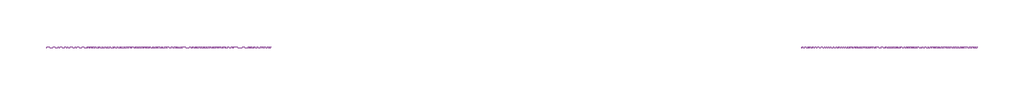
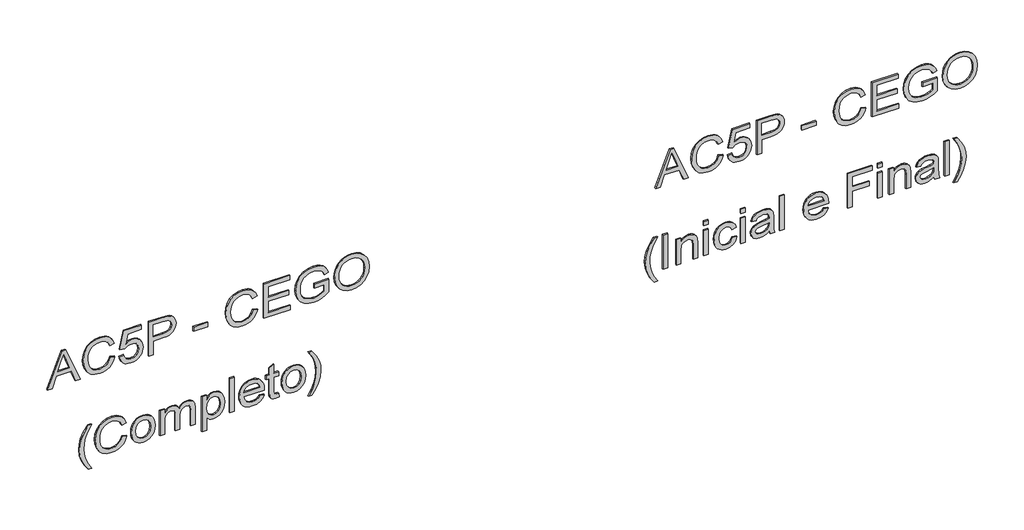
# One storey, part 11 of 12: 2 proxies.
"""IFC4 building model written with IfcOpenShell, lengths in millimetres."""

from ifc_helpers import new_model, si_unit, frame, origin, place, context, project, spatial, polyline, outline, extrude, element, save

model = new_model("IFC4")

# Units and contexts
model_context = context("Model", 3, world=origin())
ifc_project = project(units=[si_unit("LENGTHUNIT", "METRE", prefix="MILLI")], contexts=[model_context])

# Site, building, storey
site = spatial("IfcSite", under=ifc_project)
building = spatial("IfcBuilding", under=site)
storey = spatial("IfcBuildingStorey", under=building, Name="02 - Marelli - Planta Baixa - Painéis Cego", Elevation=12000.0)

# Proxies
placement = place(None, origin())
element("IfcBuildingElementProxy", 1, Name="300mm Arial", ObjectType="300mm Arial", at=placement, inside=storey, context=model_context, shape_type="SweptSolid", body=[
    extrude(outline(polyline([(17965.9244535, 57526.1420514), (17965.9244535, 57565.9468833), (18060.1022443, 57600.380638), (18060.1022443, 57724.5040232), (17965.9244535, 57759.0113544), (17965.9244535, 57798.8161862), (18267.293384, 57678.5187738), (18267.293384, 57646.4394638), (17965.9244535, 57526.1420514)]), holes=[polyline([(18097.7733606, 57614.2130011), (18178.3395176, 57643.7171371), (18229.6222677, 57662.4791188), (18171.8647944, 57683.5955453), (18097.7733606, 57710.7452366), (18097.7733606, 57614.2130011)])]), frame((0.0, 8778.3159498, 0.0), z_axis=(0.0, 1.0, 0.0), x_axis=(0.0, 0.0, 1.0)), (0.0, 0.0, 1.0), 10.0),
    extrude(outline(polyline([(18073.0516905, 58050.9625057), (18040.7884396, 58038.7764146), (18017.5750857, 58018.9935603), (18003.5587816, 57992.7911652), (17998.8866803, 57961.3464517), (18002.3171799, 57934.3715044), (18012.6086787, 57909.3647258), (18029.8347531, 57888.5058167), (18054.0689796, 57873.9744778), (18084.1617268, 57865.4488126), (18118.9633635, 57862.6069242), (18147.3822477, 57865.0073542), (18174.9550032, 57872.2086443), (18199.3455795, 57885.3328344), (18218.2179258, 57905.5019648), (18230.3028494, 57932.081439), (18234.3311572, 57964.4366605), (18230.6983225, 57992.5060567), (18219.7998184, 58015.3515286), (18200.9550632, 58033.1938054), (18173.4834752, 58046.2536162), (18182.4597959, 58083.9247325), (18220.278065, 58067.2872693), (18235.6003501, 58055.485155), (18248.5314022, 58041.3607857), (18258.7999084, 58025.1808757), (18266.1345557, 58007.2121394), (18272.0022735, 57965.9081884), (18267.4681279, 57928.0531311), (18253.8656912, 57893.5090118), (18231.526057, 57864.3819548), (18200.7803193, 57842.7780847), (18162.8332915, 57829.3963771), (18118.8897871, 57824.9358079), (18077.2271512, 57828.8813423), (18038.3236302, 57840.7179455), (18005.2326447, 57860.1053266), (17981.0076153, 57886.7031949), (17966.1635768, 57921.4036641), (17961.215564, 57965.0988481), (17962.8503396, 57987.5212557), (17967.7546665, 58008.1410415), (17975.9285445, 58026.9582055), (17987.3719739, 58043.9727478), (18001.9286046, 58058.848976), (18019.4420868, 58071.2511978), (18039.9124206, 58081.1794131), (18063.3396059, 58088.633622), (18073.0516905, 58050.9625057)])), frame((0.0, 8778.3159498, 0.0), z_axis=(0.0, 1.0, 0.0), x_axis=(0.0, 0.0, 1.0)), (0.0, 0.0, 1.0), 10.0),
    extrude(outline(polyline([(18045.9755757, 58126.3047383), (18011.4222593, 58135.4925912), (17996.9805917, 58144.2182922), (17984.4289179, 58155.6985098), (17974.2730756, 58169.4963838), (17967.0189025, 58185.1750546), (17961.215564, 58222.1747863), (17963.4734397, 58245.6640517), (17970.247067, 58266.5413549), (17981.5364457, 58284.806696), (17997.3415759, 58300.4600749), (18012.7742256, 58310.7929604), (18029.5680387, 58318.1735929), (18067.239155, 58324.0780989), (18087.5002559, 58322.4387248), (18105.8299763, 58317.5206024), (18122.2283162, 58309.3237317), (18136.6952757, 58297.8481127), (18148.5088863, 58283.9858593), (18156.9471795, 58268.6290852), (18162.0101555, 58251.7777906), (18163.6978141, 58233.4319753), (18158.2531606, 58205.2338204), (18141.9192, 58178.3232525), (18224.9133781, 58194.4364838), (18224.9133781, 58309.9514303), (18262.5844944, 58309.9514303), (18262.5844944, 58163.9758546), (18107.1911397, 58131.0136279), (18102.4822501, 58168.6847442), (18119.4783983, 58189.8379589), (18124.389623, 58204.6360122), (18126.0266978, 58222.9105503), (18121.9248136, 58250.8052026), (18109.6191609, 58270.624845), (18090.2317797, 58282.4614482), (18064.8847102, 58286.4069826), (18037.9649452, 58282.1947338), (18016.9496863, 58269.5579873), (18003.4024318, 58249.3244775), (17998.8866803, 58222.3219391), (18002.1332389, 58200.1202607), (18011.8729147, 58182.9585656), (18028.0689196, 58170.8920362), (18050.6844652, 58163.9758546), (18045.9755757, 58126.3047383)])), frame((0.0, 8778.3159498, 0.0), z_axis=(0.0, 1.0, 0.0), x_axis=(0.0, 0.0, 1.0)), (0.0, 0.0, 1.0), 10.0),
    extrude(outline(polyline([(17965.9244535, 58371.1669943), (17965.9244535, 58408.8381106), (18088.3555815, 58408.8381106), (18088.3555815, 58485.431142), (18090.0202476, 58514.6294761), (18095.0142456, 58538.9487753), (18103.3375758, 58558.3890395), (18114.990238, 58572.9502687), (18129.0479287, 58583.5567665), (18144.5863445, 58591.1328363), (18161.6054853, 58595.6784782), (18180.1053511, 58597.1936922), (18201.5620685, 58594.949612), (18221.19777, 58588.2173715), (18237.8444303, 58577.797114), (18250.334024, 58564.4889828), (18259.0620243, 58547.9618842), (18264.4239044, 58527.8847243), (18267.293384, 58482.8559681), (18267.293384, 58371.1669943), (17965.9244535, 58371.1669943)]), holes=[polyline([(18126.0266978, 58408.8381106), (18229.6222677, 58408.8381106), (18229.6222677, 58486.7555172), (18227.0470937, 58524.4266335), (18220.7195234, 58538.6544697), (18209.9773691, 58549.8472794), (18195.7035477, 58557.1037517), (18178.7809759, 58559.5225759), (18156.5057211, 58555.4206916), (18139.8590609, 58543.1150389), (18129.4847886, 58521.0421192), (18126.0266978, 58487.638434), (18126.0266978, 58408.8381106)])]), frame((0.0, 8778.3159498, 0.0), z_axis=(0.0, 1.0, 0.0), x_axis=(0.0, 0.0, 1.0)), (0.0, 0.0, 1.0), 10.0),
    extrude(outline(polyline([(58860.8915063, 8778.3159498), (58743.1692679, 8778.3159498), (58743.1692679, 8788.3159498), (58860.8915063, 8788.3159498), (58860.8915063, 8778.3159498)])), frame((0.0, 0.0, 18055.3933548), z_axis=(0.0, 0.0, 1.0), x_axis=(1.0, 0.0, 0.0)), (0.0, 0.0, 1.0), 37.6711163),
    extrude(outline(polyline([(18073.0516905, 59237.6026694), (18040.7884396, 59225.4165783), (18017.5750857, 59205.633724), (18003.5587816, 59179.4313289), (17998.8866803, 59147.9866153), (18002.3171799, 59121.011668), (18012.6086787, 59096.0048894), (18029.8347531, 59075.1459803), (18054.0689796, 59060.6146415), (18084.1617268, 59052.0889763), (18118.9633635, 59049.2470878), (18147.3822477, 59051.6475179), (18174.9550032, 59058.8488079), (18199.3455795, 59071.9729981), (18218.2179258, 59092.1421285), (18230.3028494, 59118.7216026), (18234.3311572, 59151.0768241), (18230.6983225, 59179.1462203), (18219.7998184, 59201.9916922), (18200.9550632, 59219.833969), (18173.4834752, 59232.8937798), (18182.4597959, 59270.5648961), (18220.278065, 59253.9274329), (18235.6003501, 59242.1253186), (18248.5314022, 59228.0009493), (18258.7999084, 59211.8210393), (18266.1345557, 59193.8523031), (18272.0022735, 59152.5483521), (18267.4681279, 59114.6932948), (18253.8656912, 59080.1491754), (18231.526057, 59051.0221185), (18200.7803193, 59029.4182483), (18162.8332915, 59016.0365407), (18118.8897871, 59011.5759715), (18077.2271512, 59015.5215059), (18038.3236302, 59027.3581091), (18005.2326447, 59046.7454903), (17981.0076153, 59073.3433585), (17966.1635768, 59108.0438277), (17961.215564, 59151.7390117), (17962.8503396, 59174.1614193), (17967.7546665, 59194.7812051), (17975.9285445, 59213.5983692), (17987.3719739, 59230.6129115), (18001.9286046, 59245.4891396), (18019.4420868, 59257.8913614), (18039.9124206, 59267.8195767), (18063.3396059, 59275.2737857), (18073.0516905, 59237.6026694)])), frame((0.0, 8778.3159498, 0.0), z_axis=(0.0, 1.0, 0.0), x_axis=(0.0, 0.0, 1.0)), (0.0, 0.0, 1.0), 10.0),
    extrude(outline(polyline([(17965.9244535, 59327.0715706), (17965.9244535, 59548.3893789), (18003.5955698, 59548.3893789), (18003.5955698, 59364.7426869), (18102.4822501, 59364.7426869), (18102.4822501, 59534.2627103), (18140.1533665, 59534.2627103), (18140.1533665, 59364.7426869), (18229.6222677, 59364.7426869), (18229.6222677, 59543.6804894), (18267.293384, 59543.6804894), (18267.293384, 59327.0715706), (17965.9244535, 59327.0715706)])), frame((0.0, 8778.3159498, 0.0), z_axis=(0.0, 1.0, 0.0), x_axis=(0.0, 0.0, 1.0)), (0.0, 0.0, 1.0), 10.0),
    extrude(outline(polyline([(18083.646692, 59746.1627395), (18083.646692, 59830.9227512), (18029.2001567, 59830.9227512), (18018.55917, 59814.8738991), (18008.5619768, 59792.7733883), (18001.3055044, 59767.3251513), (17998.8866803, 59741.2331208), (18002.0964507, 59711.6829995), (18011.7257619, 59683.8067413), (18027.967752, 59659.9863821), (18051.015559, 59642.6039579), (18080.6576508, 59631.9813652), (18116.6824952, 59628.440501), (18147.4006418, 59631.383557), (18175.83792, 59640.2127249), (18204.8638094, 59659.600106), (18216.8015801, 59674.0394743), (18226.2009651, 59692.41518), (18232.2986092, 59714.6444496), (18234.3311572, 59740.6445096), (18232.445762, 59762.855385), (18226.7895763, 59782.9877272), (18217.9971966, 59799.8735108), (18206.7032194, 59812.3447104), (18191.7212251, 59821.7716866), (18171.8647944, 59829.5247996), (18181.6504555, 59864.25286), (18209.4899255, 59854.6603369), (18231.4984659, 59841.4809645), (18248.494614, 59823.6662788), (18261.2969075, 59800.1678164), (18269.325932, 59772.2639671), (18272.0022735, 59741.2331208), (18267.3853545, 59698.9634795), (18253.5345974, 59661.9177626), (18230.1832877, 59631.5031187), (18197.0647111, 59609.1266963), (18157.581776, 59595.3587126), (18115.1373908, 59590.7693847), (18072.9965082, 59595.3771067), (18035.0126922, 59609.2002727), (18003.3472495, 59632.0641387), (17980.1614867, 59663.7939608), (17965.9520447, 59701.9893089), (17961.215564, 59744.2497531), (17964.1954082, 59776.5957776), (17973.1349406, 59808.1508557), (17987.9789791, 59838.8414111), (18008.6723414, 59868.5938675), (18121.3178083, 59868.5938675), (18121.3178083, 59746.1627395), (18083.646692, 59746.1627395)])), frame((0.0, 8778.3159498, 0.0), z_axis=(0.0, 1.0, 0.0), x_axis=(0.0, 0.0, 1.0)), (0.0, 0.0, 1.0), 10.0),
    extrude(outline(polyline([(18112.6357932, 59915.6827629), (18074.0909572, 59919.9869822), (18037.6246544, 59932.8996403), (18005.9316205, 59954.1632196), (17981.7065911, 59983.5202028), (17966.3383208, 60019.1679681), (17961.215564, 60059.3038938), (17965.8508771, 60097.1129658), (17979.7568166, 60132.2548934), (18002.6758649, 60162.2188819), (18034.3505046, 60184.4941368), (18072.8125672, 60198.3173027), (18116.093884, 60202.9250247), (18158.8049836, 60198.547229), (18196.7336173, 60185.4138417), (18228.3530748, 60163.9295332), (18252.1366458, 60134.4989736), (18267.0358666, 60099.0535434), (18272.0022735, 60059.524623), (18269.3581217, 60029.2341392), (18261.4256662, 60001.8591202), (18248.204907, 59977.3995661), (18229.6958441, 59955.8554768), (18206.5146799, 59938.2799144), (18179.2776166, 59925.7259413), (18147.9846544, 59918.1935575), (18112.6357932, 59915.6827629)]), holes=[polyline([(18112.2679112, 59953.3538792), (18142.8044161, 59955.3174493), (18168.6366299, 59961.2081598), (18189.7645528, 59971.0260105), (18206.1881846, 59984.7710016), (18218.5007351, 60001.2383194), (18227.2954141, 60019.2231504), (18232.5722214, 60038.7254947), (18234.3311572, 60059.7453522), (18230.6799284, 60088.9091974), (18219.726242, 60115.0380161), (18202.1322856, 60136.6970685), (18178.5602467, 60152.451615), (18149.7366924, 60162.053335), (18116.3881896, 60165.2539084), (18089.8501021, 60163.384608), (18066.5217851, 60157.7767069), (18046.4032385, 60148.4302049), (18029.4944623, 60135.3451022), (18016.1035577, 60119.3629288), (18006.5386258, 60101.3252147), (18000.7996667, 60081.23196), (17998.8866803, 60059.0831646), (18000.7812726, 60037.3068497), (18006.4650494, 60017.4481198), (18015.9380108, 59999.5069747), (18029.2001567, 59983.4834146), (18045.759445, 59970.3017428), (18065.1238335, 59960.886263), (18087.2933223, 59955.2369751), (18112.2679112, 59953.3538792)])]), frame((0.0, 8778.3159498, 0.0), z_axis=(0.0, 1.0, 0.0), x_axis=(0.0, 0.0, 1.0)), (0.0, 0.0, 1.0), 10.0),
    extrude(outline(polyline([(17149.3155348, 57867.3158137), (17149.3155348, 57895.569151), (17197.5540614, 57866.7272025), (17245.8109821, 57846.1258108), (17294.0862969, 57833.7649758), (17342.3800058, 57829.6446974), (17380.2534572, 57832.0175363), (17417.9429677, 57839.1360529), (17475.7740173, 57860.3260558), (17535.4444769, 57895.569151), (17535.4444769, 57867.3158137), (17484.934279, 57832.6245416), (17434.2033518, 57808.3075417), (17389.4137189, 57796.0570713), (17342.600735, 57791.9735811), (17289.2210575, 57797.4366288), (17237.68079, 57813.8257716), (17190.2791949, 57838.1243774), (17149.3155348, 57867.3158137)])), frame((0.0, 8778.3159498, 0.0), z_axis=(0.0, 1.0, 0.0), x_axis=(0.0, 0.0, 1.0)), (0.0, 0.0, 1.0), 10.0),
    extrude(outline(polyline([(17341.2027835, 58149.849186), (17308.9395325, 58137.6630949), (17285.7261786, 58117.8802406), (17271.7098746, 58091.6778455), (17267.0377732, 58060.233132), (17270.4682728, 58033.2581847), (17280.7597717, 58008.2514061), (17297.9858461, 57987.392497), (17322.2200725, 57972.8611582), (17352.3128197, 57964.3354929), (17387.1144565, 57961.4936045), (17415.5333406, 57963.8940345), (17443.1060961, 57971.0953246), (17467.4966724, 57984.2195148), (17486.3690188, 58004.3886451), (17498.4539423, 58030.9681193), (17502.4822501, 58063.3233408), (17498.8494154, 58091.392737), (17487.9509113, 58114.2382089), (17469.1061561, 58132.0804857), (17441.6345681, 58145.1402965), (17450.6108888, 58182.8114128), (17488.4291579, 58166.1739496), (17503.751443, 58154.3718353), (17516.6824952, 58140.247466), (17526.9510013, 58124.067556), (17534.2856486, 58106.0988198), (17540.1533665, 58064.7948687), (17535.6192209, 58026.9398114), (17522.0167841, 57992.3956921), (17499.6771499, 57963.2686351), (17468.9314122, 57941.664765), (17430.9843844, 57928.2830574), (17387.0408801, 57923.8224882), (17345.3782441, 57927.7680226), (17306.4747231, 57939.6046258), (17273.3837376, 57958.9920069), (17249.1587083, 57985.5898752), (17234.3146698, 58020.2903444), (17229.3666569, 58063.9855284), (17231.0014325, 58086.407936), (17235.9057594, 58107.0277218), (17244.0796375, 58125.8448858), (17255.5230668, 58142.8594281), (17270.0796975, 58157.7356563), (17287.5931797, 58170.1378781), (17308.0635135, 58180.0660934), (17331.4906988, 58187.5203023), (17341.2027835, 58149.849186)])), frame((0.0, 8778.3159498, 0.0), z_axis=(0.0, 1.0, 0.0), x_axis=(0.0, 0.0, 1.0)), (0.0, 0.0, 1.0), 10.0),
    extrude(outline(polyline([(17344.7344506, 58225.1914186), (17318.4124939, 58226.8997707), (17295.3646869, 58232.0248267), (17275.5910296, 58240.5665868), (17259.0915221, 58252.5250509), (17246.0868936, 58267.251827), (17236.7978732, 58284.0985231), (17231.224461, 58303.0651392), (17229.3666569, 58324.1516753), (17232.7419742, 58350.7403465), (17242.8679261, 58375.1769081), (17259.1007192, 58395.7507087), (17280.7965599, 58410.751097), (17309.767267, 58419.9113587), (17347.8246594, 58422.9647792), (17372.7049786, 58421.2380331), (17394.7388108, 58416.0577948), (17413.9261561, 58407.4240642), (17430.2670145, 58395.3368414), (17443.3199275, 58380.5272918), (17452.6434368, 58363.726581), (17458.2375424, 58344.9347088), (17460.1022443, 58324.1516753), (17458.5709355, 58305.3253142), (17453.9770091, 58287.9888752), (17446.3204651, 58272.1423583), (17435.6013034, 58257.7857634), (17418.830483, 58243.5257376), (17398.095734, 58233.3400048), (17373.3970566, 58227.2285652), (17344.7344506, 58225.1914186)]), holes=[polyline([(17344.808027, 58262.8625349), (17378.8830968, 58267.2219366), (17403.1173232, 58280.3001415), (17417.6026768, 58299.9818283), (17422.431128, 58324.1516753), (17417.5842827, 58348.0732021), (17403.0437468, 58367.7456918), (17379.0854319, 58380.9066702), (17345.9852494, 58385.2936629), (17311.1468245, 58380.9342613), (17286.535519, 58367.8560564), (17271.9122097, 58348.2111578), (17267.0377732, 58324.1516753), (17271.8846185, 58299.9818283), (17286.4251544, 58280.3001415), (17310.7145631, 58267.2219366), (17344.808027, 58262.8625349)])]), frame((0.0, 8778.3159498, 0.0), z_axis=(0.0, 1.0, 0.0), x_axis=(0.0, 0.0, 1.0)), (0.0, 0.0, 1.0), 10.0),
    extrude(outline(polyline([(17234.0755465, 58465.3447851), (17234.0755465, 58503.0159014), (17345.6909438, 58503.0159014), (17371.6082304, 58504.4506412), (17390.6461236, 58508.7548605), (17404.368122, 58516.2596532), (17414.3377241, 58527.2961131), (17420.407777, 58540.6686236), (17422.431128, 58555.1815683), (17419.3961015, 58572.2604899), (17410.2910222, 58583.7659993), (17395.0974958, 58590.3051018), (17373.7971282, 58592.4848026), (17234.0755465, 58592.4848026), (17234.0755465, 58630.1559189), (17359.008272, 58630.1559189), (17387.7214617, 58633.8439359), (17407.3479662, 58644.9079869), (17418.6603375, 58661.5454502), (17422.431128, 58681.9537039), (17420.9596, 58693.5143956), (17416.5450161, 58703.4748006), (17409.7300021, 58711.2187166), (17401.0571841, 58716.1299412), (17369.6032735, 58719.6248202), (17234.0755465, 58719.6248202), (17234.0755465, 58757.2959365), (17385.7900813, 58757.2959365), (17418.7615051, 58752.9825201), (17441.8920855, 58740.0422709), (17455.5497046, 58719.1005883), (17460.1022443, 58690.7828717), (17457.366122, 58671.2575348), (17449.1577549, 58653.6635784), (17435.4771432, 58638.0010025), (17416.3242869, 58624.269807), (17434.7643719, 58616.0660385), (17448.5875379, 58603.5212625), (17457.2235677, 58586.7274494), (17460.1022443, 58565.7765698), (17457.27875, 58546.2236417), (17448.808267, 58528.9147939), (17435.702471, 58514.3466669), (17418.9730372, 58503.0159014), (17455.3933548, 58503.0159014), (17455.3933548, 58465.3447851), (17234.0755465, 58465.3447851)])), frame((0.0, 8778.3159498, 0.0), z_axis=(0.0, 1.0, 0.0), x_axis=(0.0, 0.0, 1.0)), (0.0, 0.0, 1.0), 10.0),
    extrude(outline(polyline([(17149.3155348, 58813.8026109), (17149.3155348, 58851.4737272), (17263.5061061, 58851.4737272), (17249.9956398, 58862.1147139), (17239.0419534, 58875.3492687), (17231.785481, 58890.8095096), (17229.3666569, 58908.1275545), (17232.9810975, 58932.5457219), (17243.8244193, 58955.7682729), (17261.4459669, 58975.707477), (17285.3950848, 58990.275604), (17314.2094421, 58999.1875453), (17346.4267078, 59002.1581925), (17376.7217901, 58999.5278362), (17404.4784866, 58991.6367674), (17427.9861461, 58978.5769566), (17445.5341173, 58960.4403742), (17456.4602125, 58938.1651194), (17460.1022443, 58912.6892912), (17457.4994792, 58893.5594275), (17449.6911838, 58877.5197725), (17436.6773583, 58863.7609859), (17418.4580024, 58851.4737272), (17455.3933548, 58851.4737272), (17455.3933548, 58813.8026109), (17149.3155348, 58813.8026109)]), holes=[polyline([(17342.968617, 58851.4737272), (17377.1356573, 58855.8239318), (17402.0872537, 58868.8745456), (17417.3451594, 58887.572148), (17422.431128, 58908.8633185), (17417.6486621, 58930.0717155), (17403.3012642, 58948.0795392), (17379.3521464, 58960.3851919), (17345.7645202, 58964.4870761), (17310.7237602, 58960.2840244), (17286.2412134, 58947.674869), (17271.8386333, 58929.1796017), (17267.0377732, 58907.3182141), (17271.6730864, 58885.8063144), (17285.5790258, 58867.7708996), (17309.1970499, 58855.5480203), (17342.968617, 58851.4737272)])]), frame((0.0, 8778.3159498, 0.0), z_axis=(0.0, 1.0, 0.0), x_axis=(0.0, 0.0, 1.0)), (0.0, 0.0, 1.0), 10.0),
    extrude(outline(polyline([(59082.2093146, 8778.3159498), (59044.5381983, 8778.3159498), (59044.5381983, 8788.3159498), (59082.2093146, 8788.3159498), (59082.2093146, 8778.3159498)])), frame((0.0, 0.0, 17234.0755465), z_axis=(0.0, 0.0, 1.0), x_axis=(1.0, 0.0, 0.0)), (0.0, 0.0, 1.0), 301.3689304),
    extrude(outline(polyline([(17300.0, 59293.6678854), (17285.1191733, 59283.1096722), (17274.9104479, 59269.3876738), (17269.0059419, 59252.5018902), (17267.0377732, 59232.4523214), (17271.2868103, 59205.7900738), (17284.0339214, 59183.9286863), (17304.7640718, 59168.7811451), (17332.9622268, 59162.2604368), (17332.9622268, 59331.5597309), (17343.1157698, 59331.7804601), (17369.3687487, 59329.9939332), (17392.5039277, 59324.6343524), (17412.5213067, 59315.7017177), (17429.4208859, 59303.1960291), (17442.8439802, 59287.8760433), (17452.4319047, 59270.5005168), (17458.1846594, 59251.0694497), (17460.1022443, 59229.5828419), (17458.1800609, 59207.3811635), (17452.4135106, 59187.3499888), (17442.8025935, 59169.489318), (17429.3473095, 59153.7991509), (17412.4109422, 59141.0198501), (17392.3567749, 59131.8917781), (17369.1848077, 59126.4149349), (17342.8950406, 59124.5893205), (17317.467497, 59126.3965408), (17295.0427901, 59131.8182017), (17275.62092, 59140.8543032), (17259.2018867, 59153.5048453), (17246.1489737, 59169.2363991), (17236.8254644, 59187.5155357), (17231.2313588, 59208.3422552), (17229.3666569, 59231.7165574), (17233.6892704, 59267.3735198), (17246.6571107, 59296.0591184), (17267.4608375, 59317.2951066), (17295.2911105, 59330.6032377), (17300.0, 59293.6678854)]), holes=[polyline([(17370.6333431, 59162.2604368), (17391.8693312, 59168.4500513), (17408.3412476, 59183.0457695), (17418.9086579, 59204.0426344), (17422.431128, 59229.4356891), (17418.0165441, 59257.0636269), (17404.7727922, 59279.026182), (17390.535759, 59289.0141782), (17370.6333431, 59294.1093438), (17370.6333431, 59162.2604368)])]), frame((0.0, 8778.3159498, 0.0), z_axis=(0.0, 1.0, 0.0), x_axis=(0.0, 0.0, 1.0)), (0.0, 0.0, 1.0), 10.0),
    extrude(outline(polyline([(17265.4926689, 59449.5026986), (17267.0377732, 59433.0951616), (17269.576159, 59420.25608), (17276.4555523, 59413.8181451), (17295.8797217, 59411.8315823), (17417.7222385, 59411.8315823), (17417.7222385, 59449.5026986), (17455.3933548, 59449.5026986), (17455.3933548, 59411.8315823), (17531.3241986, 59411.8315823), (17509.1777025, 59374.160466), (17455.3933548, 59374.160466), (17455.3933548, 59345.9071287), (17417.7222385, 59345.9071287), (17417.7222385, 59374.160466), (17294.7760757, 59374.160466), (17267.7919313, 59375.3009002), (17252.0281878, 59378.7222027), (17242.849532, 59384.9394084), (17235.6206508, 59394.4675521), (17230.9301554, 59407.9504272), (17229.3666569, 59426.0318273), (17232.9719005, 59454.2115881), (17265.4926689, 59449.5026986)])), frame((0.0, 8778.3159498, 0.0), z_axis=(0.0, 1.0, 0.0), x_axis=(0.0, 0.0, 1.0)), (0.0, 0.0, 1.0), 10.0),
    extrude(outline(polyline([(17344.7344506, 59477.7560358), (17318.4124939, 59479.4643878), (17295.3646869, 59484.5894439), (17275.5910296, 59493.131204), (17259.0915221, 59505.0896681), (17246.0868936, 59519.8164442), (17236.7978732, 59536.6631403), (17231.224461, 59555.6297564), (17229.3666569, 59576.7162925), (17232.7419742, 59603.3049637), (17242.8679261, 59627.7415253), (17259.1007192, 59648.3153258), (17280.7965599, 59663.3157142), (17309.767267, 59672.4759759), (17347.8246594, 59675.5293964), (17372.7049786, 59673.8026503), (17394.7388108, 59668.622412), (17413.9261561, 59659.9886814), (17430.2670145, 59647.9014586), (17443.3199275, 59633.091909), (17452.6434368, 59616.2911982), (17458.2375424, 59597.499326), (17460.1022443, 59576.7162925), (17458.5709355, 59557.8899314), (17453.9770091, 59540.5534924), (17446.3204651, 59524.7069755), (17435.6013034, 59510.3503806), (17418.830483, 59496.0903548), (17398.095734, 59485.904622), (17373.3970566, 59479.7931824), (17344.7344506, 59477.7560358)]), holes=[polyline([(17344.808027, 59515.4271521), (17378.8830968, 59519.7865538), (17403.1173232, 59532.8647587), (17417.6026768, 59552.5464454), (17422.431128, 59576.7162925), (17417.5842827, 59600.6378193), (17403.0437468, 59620.310309), (17379.0854319, 59633.4712873), (17345.9852494, 59637.8582801), (17311.1468245, 59633.4988785), (17286.535519, 59620.4206735), (17271.9122097, 59600.775775), (17267.0377732, 59576.7162925), (17271.8846185, 59552.5464454), (17286.4251544, 59532.8647587), (17310.7145631, 59519.7865538), (17344.808027, 59515.4271521)])]), frame((0.0, 8778.3159498, 0.0), z_axis=(0.0, 1.0, 0.0), x_axis=(0.0, 0.0, 1.0)), (0.0, 0.0, 1.0), 10.0),
    extrude(outline(polyline([(17149.3155348, 59727.3271813), (17190.2791949, 59756.3806619), (17237.68079, 59780.7068588), (17289.2210575, 59797.1787752), (17342.600735, 59802.669414), (17389.4137189, 59798.5859238), (17434.2033518, 59786.3354534), (17484.934279, 59762.0184535), (17535.4444769, 59727.3271813), (17535.4444769, 59699.0738441), (17475.1854061, 59734.5376685), (17446.8400984, 59746.5122274), (17417.2807801, 59755.5069422), (17379.9775458, 59762.6254588), (17342.3800058, 59764.9982977), (17294.0862969, 59760.8780193), (17245.8109821, 59748.5171843), (17197.5540614, 59727.9157925), (17149.3155348, 59699.0738441), (17149.3155348, 59727.3271813)])), frame((0.0, 8778.3159498, 0.0), z_axis=(0.0, 1.0, 0.0), x_axis=(0.0, 0.0, 1.0)), (0.0, 0.0, 1.0), 10.0),
])
element("IfcBuildingElementProxy", 2, Name="300mm Arial", ObjectType="300mm Arial", at=placement, inside=storey, context=model_context, shape_type="SweptSolid", body=[
    extrude(outline(polyline([(17965.9244535, 62585.0031706), (17965.9244535, 62624.8080025), (18060.1022443, 62659.2417573), (18060.1022443, 62783.3651424), (17965.9244535, 62817.8724736), (17965.9244535, 62857.6773055), (18267.293384, 62737.379893), (18267.293384, 62705.3005831), (17965.9244535, 62585.0031706)]), holes=[polyline([(18097.7733606, 62673.0741203), (18178.3395176, 62702.5782563), (18229.6222677, 62721.340238), (18171.8647944, 62742.4566646), (18097.7733606, 62769.6063558), (18097.7733606, 62673.0741203)])]), frame((0.0, 8778.3159498, 0.0), z_axis=(0.0, 1.0, 0.0), x_axis=(0.0, 0.0, 1.0)), (0.0, 0.0, 1.0), 10.0),
    extrude(outline(polyline([(18073.0516905, 63109.823625), (18040.7884396, 63097.6375339), (18017.5750857, 63077.8546796), (18003.5587816, 63051.6522845), (17998.8866803, 63020.2075709), (18002.3171799, 62993.2326236), (18012.6086787, 62968.225845), (18029.8347531, 62947.3669359), (18054.0689796, 62932.8355971), (18084.1617268, 62924.3099318), (18118.9633635, 62921.4680434), (18147.3822477, 62923.8684734), (18174.9550032, 62931.0697635), (18199.3455795, 62944.1939537), (18218.2179258, 62964.3630841), (18230.3028494, 62990.9425582), (18234.3311572, 63023.2977797), (18230.6983225, 63051.3671759), (18219.7998184, 63074.2126478), (18200.9550632, 63092.0549246), (18173.4834752, 63105.1147354), (18182.4597959, 63142.7858517), (18220.278065, 63126.1483885), (18235.6003501, 63114.3462742), (18248.5314022, 63100.2219049), (18258.7999084, 63084.0419949), (18266.1345557, 63066.0732587), (18272.0022735, 63024.7693077), (18267.4681279, 62986.9142504), (18253.8656912, 62952.370131), (18231.526057, 62923.2430741), (18200.7803193, 62901.6392039), (18162.8332915, 62888.2574963), (18118.8897871, 62883.7969271), (18077.2271512, 62887.7424615), (18038.3236302, 62899.5790647), (18005.2326447, 62918.9664459), (17981.0076153, 62945.5643141), (17966.1635768, 62980.2647833), (17961.215564, 63023.9599673), (17962.8503396, 63046.3823749), (17967.7546665, 63067.0021607), (17975.9285445, 63085.8193248), (17987.3719739, 63102.833867), (18001.9286046, 63117.7100952), (18019.4420868, 63130.112317), (18039.9124206, 63140.0405323), (18063.3396059, 63147.4947413), (18073.0516905, 63109.823625)])), frame((0.0, 8778.3159498, 0.0), z_axis=(0.0, 1.0, 0.0), x_axis=(0.0, 0.0, 1.0)), (0.0, 0.0, 1.0), 10.0),
    extrude(outline(polyline([(18045.9755757, 63185.1658576), (18011.4222593, 63194.3537104), (17996.9805917, 63203.0794115), (17984.4289179, 63214.559629), (17974.2730756, 63228.3575031), (17967.0189025, 63244.0361738), (17961.215564, 63281.0359055), (17963.4734397, 63304.5251709), (17970.247067, 63325.4024741), (17981.5364457, 63343.6678152), (17997.3415759, 63359.3211941), (18012.7742256, 63369.6540796), (18029.5680387, 63377.0347122), (18067.239155, 63382.9392182), (18087.5002559, 63381.299844), (18105.8299763, 63376.3817216), (18122.2283162, 63368.1848509), (18136.6952757, 63356.7092319), (18148.5088863, 63342.8469785), (18156.9471795, 63327.4902045), (18162.0101555, 63310.6389098), (18163.6978141, 63292.2930946), (18158.2531606, 63264.0949396), (18141.9192, 63237.1843717), (18224.9133781, 63253.2976031), (18224.9133781, 63368.8125496), (18262.5844944, 63368.8125496), (18262.5844944, 63222.8369739), (18107.1911397, 63189.8747471), (18102.4822501, 63227.5458634), (18119.4783983, 63248.6990781), (18124.389623, 63263.4971314), (18126.0266978, 63281.7716695), (18121.9248136, 63309.6663218), (18109.6191609, 63329.4859643), (18090.2317797, 63341.3225675), (18064.8847102, 63345.2681019), (18037.9649452, 63341.055853), (18016.9496863, 63328.4191065), (18003.4024318, 63308.1855968), (17998.8866803, 63281.1830583), (18002.1332389, 63258.9813799), (18011.8729147, 63241.8196848), (18028.0689196, 63229.7531554), (18050.6844652, 63222.8369739), (18045.9755757, 63185.1658576)])), frame((0.0, 8778.3159498, 0.0), z_axis=(0.0, 1.0, 0.0), x_axis=(0.0, 0.0, 1.0)), (0.0, 0.0, 1.0), 10.0),
    extrude(outline(polyline([(17965.9244535, 63430.0281136), (17965.9244535, 63467.6992299), (18088.3555815, 63467.6992299), (18088.3555815, 63544.2922613), (18090.0202476, 63573.4905954), (18095.0142456, 63597.8098945), (18103.3375758, 63617.2501587), (18114.990238, 63631.8113879), (18129.0479287, 63642.4178857), (18144.5863445, 63649.9939555), (18161.6054853, 63654.5395974), (18180.1053511, 63656.0548114), (18201.5620685, 63653.8107312), (18221.19777, 63647.0784907), (18237.8444303, 63636.6582332), (18250.334024, 63623.350102), (18259.0620243, 63606.8230034), (18264.4239044, 63586.7458435), (18267.293384, 63541.7170873), (18267.293384, 63430.0281136), (17965.9244535, 63430.0281136)]), holes=[polyline([(18126.0266978, 63467.6992299), (18229.6222677, 63467.6992299), (18229.6222677, 63545.6166364), (18227.0470937, 63583.2877527), (18220.7195234, 63597.5155889), (18209.9773691, 63608.7083986), (18195.7035477, 63615.964871), (18178.7809759, 63618.3836951), (18156.5057211, 63614.2818108), (18139.8590609, 63601.9761581), (18129.4847886, 63579.9032384), (18126.0266978, 63546.4995532), (18126.0266978, 63467.6992299)])]), frame((0.0, 8778.3159498, 0.0), z_axis=(0.0, 1.0, 0.0), x_axis=(0.0, 0.0, 1.0)), (0.0, 0.0, 1.0), 10.0),
    extrude(outline(polyline([(63919.7526255, 8778.3159498), (63802.0303871, 8778.3159498), (63802.0303871, 8788.3159498), (63919.7526255, 8788.3159498), (63919.7526255, 8778.3159498)])), frame((0.0, 0.0, 18055.3933548), z_axis=(0.0, 0.0, 1.0), x_axis=(1.0, 0.0, 0.0)), (0.0, 0.0, 1.0), 37.6711163),
    extrude(outline(polyline([(18073.0516905, 64296.4637886), (18040.7884396, 64284.2776975), (18017.5750857, 64264.4948432), (18003.5587816, 64238.2924481), (17998.8866803, 64206.8477346), (18002.3171799, 64179.8727873), (18012.6086787, 64154.8660087), (18029.8347531, 64134.0070995), (18054.0689796, 64119.4757607), (18084.1617268, 64110.9500955), (18118.9633635, 64108.1082071), (18147.3822477, 64110.5086371), (18174.9550032, 64117.7099271), (18199.3455795, 64130.8341173), (18218.2179258, 64151.0032477), (18230.3028494, 64177.5827219), (18234.3311572, 64209.9379433), (18230.6983225, 64238.0073396), (18219.7998184, 64260.8528115), (18200.9550632, 64278.6950882), (18173.4834752, 64291.7548991), (18182.4597959, 64329.4260154), (18220.278065, 64312.7885521), (18235.6003501, 64300.9864379), (18248.5314022, 64286.8620685), (18258.7999084, 64270.6821585), (18266.1345557, 64252.7134223), (18272.0022735, 64211.4094713), (18267.4681279, 64173.554414), (18253.8656912, 64139.0102947), (18231.526057, 64109.8832377), (18200.7803193, 64088.2793675), (18162.8332915, 64074.89766), (18118.8897871, 64070.4370908), (18077.2271512, 64074.3826252), (18038.3236302, 64086.2192284), (18005.2326447, 64105.6066095), (17981.0076153, 64132.2044778), (17966.1635768, 64166.9049469), (17961.215564, 64210.6001309), (17962.8503396, 64233.0225385), (17967.7546665, 64253.6423244), (17975.9285445, 64272.4594884), (17987.3719739, 64289.4740307), (18001.9286046, 64304.3502589), (18019.4420868, 64316.7524806), (18039.9124206, 64326.680696), (18063.3396059, 64334.1349049), (18073.0516905, 64296.4637886)])), frame((0.0, 8778.3159498, 0.0), z_axis=(0.0, 1.0, 0.0), x_axis=(0.0, 0.0, 1.0)), (0.0, 0.0, 1.0), 10.0),
    extrude(outline(polyline([(17965.9244535, 64385.9326898), (17965.9244535, 64607.2504981), (18003.5955698, 64607.2504981), (18003.5955698, 64423.6038061), (18102.4822501, 64423.6038061), (18102.4822501, 64593.1238295), (18140.1533665, 64593.1238295), (18140.1533665, 64423.6038061), (18229.6222677, 64423.6038061), (18229.6222677, 64602.5416086), (18267.293384, 64602.5416086), (18267.293384, 64385.9326898), (17965.9244535, 64385.9326898)])), frame((0.0, 8778.3159498, 0.0), z_axis=(0.0, 1.0, 0.0), x_axis=(0.0, 0.0, 1.0)), (0.0, 0.0, 1.0), 10.0),
    extrude(outline(polyline([(18083.646692, 64805.0238587), (18083.646692, 64889.7838704), (18029.2001567, 64889.7838704), (18018.55917, 64873.7350184), (18008.5619768, 64851.6345075), (18001.3055044, 64826.1862705), (17998.8866803, 64800.09424), (18002.0964507, 64770.5441187), (18011.7257619, 64742.6678605), (18027.967752, 64718.8475014), (18051.015559, 64701.4650771), (18080.6576508, 64690.8424845), (18116.6824952, 64687.3016203), (18147.4006418, 64690.2446762), (18175.83792, 64699.0738441), (18204.8638094, 64718.4612253), (18216.8015801, 64732.9005936), (18226.2009651, 64751.2762992), (18232.2986092, 64773.5055688), (18234.3311572, 64799.5056288), (18232.445762, 64821.7165043), (18226.7895763, 64841.8488464), (18217.9971966, 64858.73463), (18206.7032194, 64871.2058297), (18191.7212251, 64880.6328058), (18171.8647944, 64888.3859188), (18181.6504555, 64923.1139792), (18209.4899255, 64913.5214562), (18231.4984659, 64900.3420837), (18248.494614, 64882.5273981), (18261.2969075, 64859.0289356), (18269.325932, 64831.1250863), (18272.0022735, 64800.09424), (18267.3853545, 64757.8245987), (18253.5345974, 64720.7788818), (18230.1832877, 64690.3642379), (18197.0647111, 64667.9878155), (18157.581776, 64654.2198319), (18115.1373908, 64649.630504), (18072.9965082, 64654.238226), (18035.0126922, 64668.0613919), (18003.3472495, 64690.9252579), (17980.1614867, 64722.65508), (17965.9520447, 64760.8504282), (17961.215564, 64803.1108724), (17964.1954082, 64835.4568968), (17973.1349406, 64867.0119749), (17987.9789791, 64897.7025304), (18008.6723414, 64927.4549867), (18121.3178083, 64927.4549867), (18121.3178083, 64805.0238587), (18083.646692, 64805.0238587)])), frame((0.0, 8778.3159498, 0.0), z_axis=(0.0, 1.0, 0.0), x_axis=(0.0, 0.0, 1.0)), (0.0, 0.0, 1.0), 10.0),
    extrude(outline(polyline([(18112.6357932, 64974.5438821), (18074.0909572, 64978.8481015), (18037.6246544, 64991.7607595), (18005.9316205, 65013.0243388), (17981.7065911, 65042.381322), (17966.3383208, 65078.0290873), (17961.215564, 65118.165013), (17965.8508771, 65155.9740851), (17979.7568166, 65191.1160127), (18002.6758649, 65221.0800012), (18034.3505046, 65243.355256), (18072.8125672, 65257.178422), (18116.093884, 65261.7861439), (18158.8049836, 65257.4083482), (18196.7336173, 65244.274961), (18228.3530748, 65222.7906525), (18252.1366458, 65193.3600928), (18267.0358666, 65157.9146626), (18272.0022735, 65118.3857422), (18269.3581217, 65088.0952584), (18261.4256662, 65060.7202395), (18248.204907, 65036.2606853), (18229.6958441, 65014.716596), (18206.5146799, 64997.1410337), (18179.2776166, 64984.5870606), (18147.9846544, 64977.0546767), (18112.6357932, 64974.5438821)]), holes=[polyline([(18112.2679112, 65012.2149984), (18142.8044161, 65014.1785686), (18168.6366299, 65020.069279), (18189.7645528, 65029.8871298), (18206.1881846, 65043.6321208), (18218.5007351, 65060.0994386), (18227.2954141, 65078.0842696), (18232.5722214, 65097.5866139), (18234.3311572, 65118.6064714), (18230.6799284, 65147.7703166), (18219.726242, 65173.8991353), (18202.1322856, 65195.5581878), (18178.5602467, 65211.3127342), (18149.7366924, 65220.9144543), (18116.3881896, 65224.1150276), (18089.8501021, 65222.2457272), (18066.5217851, 65216.6378261), (18046.4032385, 65207.2913241), (18029.4944623, 65194.2062214), (18016.1035577, 65178.224048), (18006.5386258, 65160.1863339), (18000.7996667, 65140.0930792), (17998.8866803, 65117.9442838), (18000.7812726, 65096.167969), (18006.4650494, 65076.309239), (18015.9380108, 65058.368094), (18029.2001567, 65042.3445338), (18045.759445, 65029.1628621), (18065.1238335, 65019.7473823), (18087.2933223, 65014.0980944), (18112.2679112, 65012.2149984)])]), frame((0.0, 8778.3159498, 0.0), z_axis=(0.0, 1.0, 0.0), x_axis=(0.0, 0.0, 1.0)), (0.0, 0.0, 1.0), 10.0),
    extrude(outline(polyline([(17149.3155348, 62573.0102176), (17149.3155348, 62601.2635548), (17197.5540614, 62572.4216064), (17245.8109821, 62551.8202147), (17294.0862969, 62539.4593796), (17342.3800058, 62535.3391013), (17380.2534572, 62537.7119402), (17417.9429677, 62544.8304568), (17475.7740173, 62566.0204597), (17535.4444769, 62601.2635548), (17535.4444769, 62573.0102176), (17484.934279, 62538.3189454), (17434.2033518, 62514.0019456), (17389.4137189, 62501.7514751), (17342.600735, 62497.667985), (17289.2210575, 62503.1310326), (17237.68079, 62519.5201755), (17190.2791949, 62543.8187813), (17149.3155348, 62573.0102176)])), frame((0.0, 8778.3159498, 0.0), z_axis=(0.0, 1.0, 0.0), x_axis=(0.0, 0.0, 1.0)), (0.0, 0.0, 1.0), 10.0),
    extrude(outline(polyline([(62686.0235665, 8778.3159498), (62648.3524502, 8778.3159498), (62648.3524502, 8788.3159498), (62686.0235665, 8788.3159498), (62686.0235665, 8778.3159498)])), frame((0.0, 0.0, 17234.0755465), z_axis=(0.0, 0.0, 1.0), x_axis=(1.0, 0.0, 0.0)), (0.0, 0.0, 1.0), 301.3689304),
    extrude(outline(polyline([(17234.0755465, 62756.6569096), (17234.0755465, 62794.3280259), (17351.5034793, 62794.3280259), (17386.2131456, 62798.6230482), (17398.5877762, 62803.9918261), (17407.6422718, 62811.5081151), (17418.7339139, 62830.3160821), (17422.431128, 62852.3798047), (17420.7848561, 62866.2765471), (17415.8460403, 62878.241909), (17408.1481095, 62887.5769146), (17398.2244927, 62893.5825882), (17364.8943839, 62897.9235957), (17234.0755465, 62897.9235957), (17234.0755465, 62935.594712), (17369.9711555, 62935.594712), (17406.391473, 62933.6081493), (17434.0929872, 62922.314172), (17444.6328064, 62912.2158112), (17452.9285454, 62898.0339603), (17458.3088196, 62881.0286151), (17460.1022443, 62862.4597714), (17457.8765582, 62841.4813006), (17451.1995, 62823.1331861), (17440.0710697, 62807.4154279), (17424.4912672, 62794.3280259), (17455.3933548, 62794.3280259), (17455.3933548, 62756.6569096), (17234.0755465, 62756.6569096)])), frame((0.0, 8778.3159498, 0.0), z_axis=(0.0, 1.0, 0.0), x_axis=(0.0, 0.0, 1.0)), (0.0, 0.0, 1.0), 10.0),
    extrude(outline(polyline([(63025.0636133, 8778.3159498), (62987.392497, 8778.3159498), (62987.392497, 8788.3159498), (63025.0636133, 8788.3159498), (63025.0636133, 8778.3159498)])), frame((0.0, 0.0, 17497.7733606), z_axis=(0.0, 0.0, 1.0), x_axis=(1.0, 0.0, 0.0)), (0.0, 0.0, 1.0), 37.6711163),
    extrude(outline(polyline([(63025.0636133, 8778.3159498), (62987.392497, 8778.3159498), (62987.392497, 8788.3159498), (63025.0636133, 8788.3159498), (63025.0636133, 8778.3159498)])), frame((0.0, 0.0, 17234.0755465), z_axis=(0.0, 0.0, 1.0), x_axis=(1.0, 0.0, 0.0)), (0.0, 0.0, 1.0), 221.3178083),
    extrude(outline(polyline([(17314.1266686, 63222.8369739), (17293.2493654, 63216.408236), (17278.5892679, 63204.7739679), (17269.9256469, 63188.7802982), (17267.0377732, 63169.2733554), (17271.6638893, 63145.241464), (17285.5422376, 63126.2679501), (17309.6477053, 63113.9347063), (17344.9551798, 63109.823625), (17379.7936048, 63114.0266767), (17403.816299, 63126.6358321), (17417.7774208, 63145.9588339), (17422.431128, 63170.303425), (17420.0674862, 63186.7937354), (17412.9765607, 63200.6536896), (17401.1951398, 63211.2946763), (17384.7600117, 63218.1280843), (17389.4689012, 63255.7992006), (17419.4512838, 63245.54449), (17441.7081445, 63227.288346), (17455.5037194, 63201.840109), (17460.1022443, 63170.0091194), (17456.7545181, 63143.3652659), (17446.7113397, 63118.7631574), (17429.9635118, 63098.1985539), (17406.5018376, 63083.6672151), (17377.448357, 63075.0311853), (17343.9251102, 63072.1525086), (17317.8675687, 63073.837868), (17295.024396, 63078.8939462), (17275.3955923, 63087.3207432), (17258.9811575, 63099.1182589), (17246.0248135, 63113.6932837), (17236.7702821, 63130.4526078), (17231.2175632, 63149.3962313), (17229.3666569, 63170.5241542), (17234.6733547, 63203.1552871), (17250.593448, 63230.2681902), (17275.9129264, 63250.0050592), (17309.4177791, 63260.5080902), (17314.1266686, 63222.8369739)])), frame((0.0, 8778.3159498, 0.0), z_axis=(0.0, 1.0, 0.0), x_axis=(0.0, 0.0, 1.0)), (0.0, 0.0, 1.0), 10.0),
    extrude(outline(polyline([(63331.1414333, 8778.3159498), (63293.4703169, 8778.3159498), (63293.4703169, 8788.3159498), (63331.1414333, 8788.3159498), (63331.1414333, 8778.3159498)])), frame((0.0, 0.0, 17497.7733606), z_axis=(0.0, 0.0, 1.0), x_axis=(1.0, 0.0, 0.0)), (0.0, 0.0, 1.0), 37.6711163),
    extrude(outline(polyline([(63331.1414333, 8778.3159498), (63293.4703169, 8778.3159498), (63293.4703169, 8788.3159498), (63331.1414333, 8788.3159498), (63331.1414333, 8778.3159498)])), frame((0.0, 0.0, 17234.0755465), z_axis=(0.0, 0.0, 1.0), x_axis=(1.0, 0.0, 0.0)), (0.0, 0.0, 1.0), 221.3178083),
    extrude(outline(polyline([(17262.3288837, 63528.9147939), (17234.0755465, 63538.3325729), (17234.0755465, 63576.0036892), (17265.7501862, 63568.4988965), (17331.1963932, 63566.5859102), (17378.0645594, 63566.5859102), (17411.0267861, 63564.7465002), (17425.1442577, 63560.2031575), (17436.5945848, 63553.1950055), (17445.856014, 63542.6275952), (17453.406792, 63527.4064777), (17458.4283812, 63507.2189532), (17460.1022443, 63481.7523221), (17458.207652, 63455.2004391), (17452.5238752, 63432.0514645), (17443.3452194, 63413.1239359), (17430.9659903, 63399.2363906), (17414.7791825, 63389.4783206), (17394.1777908, 63382.9392182), (17389.4689012, 63420.6103345), (17405.1314772, 63428.0967331), (17415.1838527, 63438.783705), (17420.6193092, 63454.455478), (17422.431128, 63476.8962797), (17419.7088012, 63501.1397032), (17411.5418209, 63518.5405216), (17400.5421493, 63526.3212258), (17383.7299421, 63528.9147939), (17375.3422326, 63528.6940647), (17368.3524747, 63501.8754672), (17362.3927864, 63463.3582223), (17356.7274037, 63430.7638775), (17344.3665686, 63404.3867385), (17334.8752131, 63393.78254), (17322.7351073, 63385.4408157), (17308.5532564, 63380.0329504), (17292.9366657, 63378.2303286), (17267.6079903, 63383.0035975), (17247.2457219, 63397.3234042), (17233.8364232, 63420.5459551), (17229.3666569, 63452.0274569), (17231.224461, 63472.895563), (17236.7978732, 63492.3841117), (17246.896234, 63510.9161672), (17262.3288837, 63528.9147939)]), holes=[polyline([(17337.6711163, 63528.9147939), (17327.0025384, 63528.6940647), (17310.0799667, 63527.2041426), (17297.8662844, 63522.7343763), (17286.0112871, 63512.6544097), (17276.0508821, 63498.1598591), (17269.2910505, 63480.2807941), (17267.0377732, 63460.0472844), (17269.0795183, 63440.9634059), (17275.2047535, 63427.1218458), (17284.3834093, 63418.7065452), (17295.5854161, 63415.9014449), (17310.0799667, 63421.0517929), (17320.0127805, 63435.7302845), (17326.1196217, 63468.1406883), (17337.6711163, 63528.9147939)])]), frame((0.0, 8778.3159498, 0.0), z_axis=(0.0, 1.0, 0.0), x_axis=(0.0, 0.0, 1.0)), (0.0, 0.0, 1.0), 10.0),
    extrude(outline(polyline([(63656.0548114, 8778.3159498), (63618.3836951, 8778.3159498), (63618.3836951, 8788.3159498), (63656.0548114, 8788.3159498), (63656.0548114, 8778.3159498)])), frame((0.0, 0.0, 17234.0755465), z_axis=(0.0, 0.0, 1.0), x_axis=(1.0, 0.0, 0.0)), (0.0, 0.0, 1.0), 301.3689304),
    extrude(outline(polyline([(17300.0, 63985.2356207), (17285.1191733, 63974.6774074), (17274.9104479, 63960.955409), (17269.0059419, 63944.0696254), (17267.0377732, 63924.0200567), (17271.2868103, 63897.3578091), (17284.0339214, 63875.4964215), (17304.7640718, 63860.3488804), (17332.9622268, 63853.828172), (17332.9622268, 64023.1274662), (17343.1157698, 64023.3481954), (17369.3687487, 64021.5616684), (17392.5039277, 64016.2020876), (17412.5213067, 64007.2694529), (17429.4208859, 63994.7637644), (17442.8439802, 63979.4437785), (17452.4319047, 63962.068252), (17458.1846594, 63942.6371849), (17460.1022443, 63921.1505771), (17458.1800609, 63898.9488987), (17452.4135106, 63878.9177241), (17442.8025935, 63861.0570532), (17429.3473095, 63845.3668861), (17412.4109422, 63832.5875853), (17392.3567749, 63823.4595133), (17369.1848077, 63817.9826701), (17342.8950406, 63816.1570557), (17317.467497, 63817.964276), (17295.0427901, 63823.3859369), (17275.62092, 63832.4220384), (17259.2018867, 63845.0725805), (17246.1489737, 63860.8041343), (17236.8254644, 63879.083271), (17231.2313588, 63899.9099904), (17229.3666569, 63923.2842927), (17233.6892704, 63958.9412551), (17246.6571107, 63987.6268536), (17267.4608375, 64008.8628418), (17295.2911105, 64022.170973), (17300.0, 63985.2356207)]), holes=[polyline([(17370.6333431, 63853.828172), (17391.8693312, 63860.0177866), (17408.3412476, 63874.6135047), (17418.9086579, 63895.6103696), (17422.431128, 63921.0034243), (17418.0165441, 63948.6313622), (17404.7727922, 63970.5939173), (17390.535759, 63980.5819134), (17370.6333431, 63985.6770791), (17370.6333431, 63853.828172)])]), frame((0.0, 8778.3159498, 0.0), z_axis=(0.0, 1.0, 0.0), x_axis=(0.0, 0.0, 1.0)), (0.0, 0.0, 1.0), 10.0),
    extrude(outline(polyline([(17234.0755465, 64183.4504397), (17234.0755465, 64221.121556), (17370.6333431, 64221.121556), (17370.6333431, 64362.3882421), (17408.3044594, 64362.3882421), (17408.3044594, 64221.121556), (17497.7733606, 64221.121556), (17497.7733606, 64385.9326898), (17535.4444769, 64385.9326898), (17535.4444769, 64183.4504397), (17234.0755465, 64183.4504397)])), frame((0.0, 8778.3159498, 0.0), z_axis=(0.0, 1.0, 0.0), x_axis=(0.0, 0.0, 1.0)), (0.0, 0.0, 1.0), 10.0),
    extrude(outline(polyline([(64470.6927015, 8778.3159498), (64433.0215852, 8778.3159498), (64433.0215852, 8788.3159498), (64470.6927015, 8788.3159498), (64470.6927015, 8778.3159498)])), frame((0.0, 0.0, 17497.7733606), z_axis=(0.0, 0.0, 1.0), x_axis=(1.0, 0.0, 0.0)), (0.0, 0.0, 1.0), 37.6711163),
    extrude(outline(polyline([(64470.6927015, 8778.3159498), (64433.0215852, 8778.3159498), (64433.0215852, 8788.3159498), (64470.6927015, 8788.3159498), (64470.6927015, 8778.3159498)])), frame((0.0, 0.0, 17234.0755465), z_axis=(0.0, 0.0, 1.0), x_axis=(1.0, 0.0, 0.0)), (0.0, 0.0, 1.0), 221.3178083),
    extrude(outline(polyline([(17234.0755465, 64527.199376), (17234.0755465, 64564.8704923), (17351.5034793, 64564.8704923), (17386.2131456, 64569.1655146), (17398.5877762, 64574.5342924), (17407.6422718, 64582.0505815), (17418.7339139, 64600.8585485), (17422.431128, 64622.9222711), (17420.7848561, 64636.8190135), (17415.8460403, 64648.7843754), (17408.1481095, 64658.119381), (17398.2244927, 64664.1250546), (17364.8943839, 64668.4660621), (17234.0755465, 64668.4660621), (17234.0755465, 64706.1371784), (17369.9711555, 64706.1371784), (17406.391473, 64704.1506157), (17434.0929872, 64692.8566384), (17444.6328064, 64682.7582776), (17452.9285454, 64668.5764267), (17458.3088196, 64651.5710815), (17460.1022443, 64633.0022378), (17457.8765582, 64612.023767), (17451.1995, 64593.6756525), (17440.0710697, 64577.9578943), (17424.4912672, 64564.8704923), (17455.3933548, 64564.8704923), (17455.3933548, 64527.199376), (17234.0755465, 64527.199376)])), frame((0.0, 8778.3159498, 0.0), z_axis=(0.0, 1.0, 0.0), x_axis=(0.0, 0.0, 1.0)), (0.0, 0.0, 1.0), 10.0),
    extrude(outline(polyline([(17262.3288837, 64899.2016495), (17234.0755465, 64908.6194286), (17234.0755465, 64946.2905449), (17265.7501862, 64938.7857522), (17331.1963932, 64936.8727658), (17378.0645594, 64936.8727658), (17411.0267861, 64935.0333558), (17425.1442577, 64930.4900132), (17436.5945848, 64923.4818612), (17445.856014, 64912.9144509), (17453.406792, 64897.6933333), (17458.4283812, 64877.5058088), (17460.1022443, 64852.0391777), (17458.207652, 64825.4872947), (17452.5238752, 64802.3383202), (17443.3452194, 64783.4107915), (17430.9659903, 64769.5232462), (17414.7791825, 64759.7651763), (17394.1777908, 64753.2260738), (17389.4689012, 64790.8971901), (17405.1314772, 64798.3835887), (17415.1838527, 64809.0705607), (17420.6193092, 64824.7423337), (17422.431128, 64847.1831354), (17419.7088012, 64871.4265589), (17411.5418209, 64888.8273772), (17400.5421493, 64896.6080814), (17383.7299421, 64899.2016495), (17375.3422326, 64898.9809203), (17368.3524747, 64872.1623228), (17362.3927864, 64833.645078), (17356.7274037, 64801.0507332), (17344.3665686, 64774.6735941), (17334.8752131, 64764.0693956), (17322.7351073, 64755.7276714), (17308.5532564, 64750.319806), (17292.9366657, 64748.5171843), (17267.6079903, 64753.2904532), (17247.2457219, 64767.6102598), (17233.8364232, 64790.8328108), (17229.3666569, 64822.3143125), (17231.224461, 64843.1824187), (17236.7978732, 64862.6709674), (17246.896234, 64881.2030229), (17262.3288837, 64899.2016495)]), holes=[polyline([(17337.6711163, 64899.2016495), (17327.0025384, 64898.9809203), (17310.0799667, 64897.4909982), (17297.8662844, 64893.021232), (17286.0112871, 64882.9412653), (17276.0508821, 64868.4467147), (17269.2910505, 64850.5676497), (17267.0377732, 64830.33414), (17269.0795183, 64811.2502615), (17275.2047535, 64797.4087014), (17284.3834093, 64788.9934008), (17295.5854161, 64786.1883006), (17310.0799667, 64791.3386485), (17320.0127805, 64806.0171401), (17326.1196217, 64838.4275439), (17337.6711163, 64899.2016495)])]), frame((0.0, 8778.3159498, 0.0), z_axis=(0.0, 1.0, 0.0), x_axis=(0.0, 0.0, 1.0)), (0.0, 0.0, 1.0), 10.0),
    extrude(outline(polyline([(65026.341667, 8778.3159498), (64988.6705507, 8778.3159498), (64988.6705507, 8788.3159498), (65026.341667, 8788.3159498), (65026.341667, 8778.3159498)])), frame((0.0, 0.0, 17234.0755465), z_axis=(0.0, 0.0, 1.0), x_axis=(1.0, 0.0, 0.0)), (0.0, 0.0, 1.0), 301.3689304),
    extrude(outline(polyline([(17149.3155348, 65092.2661206), (17190.2791949, 65121.3196011), (17237.68079, 65145.6457981), (17289.2210575, 65162.1177144), (17342.600735, 65167.6083532), (17389.4137189, 65163.524863), (17434.2033518, 65151.2743926), (17484.934279, 65126.9573927), (17535.4444769, 65092.2661206), (17535.4444769, 65064.0127833), (17475.1854061, 65099.4766077), (17446.8400984, 65111.4511666), (17417.2807801, 65120.4458814), (17379.9775458, 65127.564398), (17342.3800058, 65129.9372369), (17294.0862969, 65125.8169585), (17245.8109821, 65113.4561235), (17197.5540614, 65092.8547318), (17149.3155348, 65064.0127833), (17149.3155348, 65092.2661206)])), frame((0.0, 8778.3159498, 0.0), z_axis=(0.0, 1.0, 0.0), x_axis=(0.0, 0.0, 1.0)), (0.0, 0.0, 1.0), 10.0),
])

save(model, "model.ifc")
